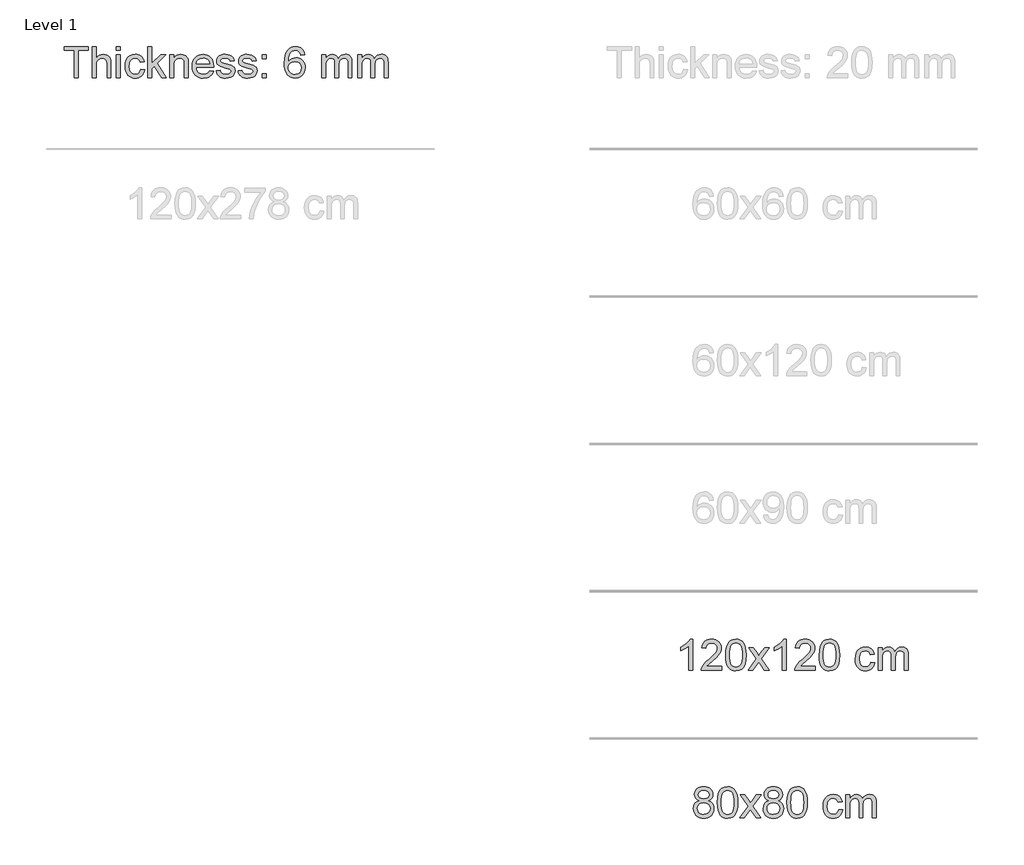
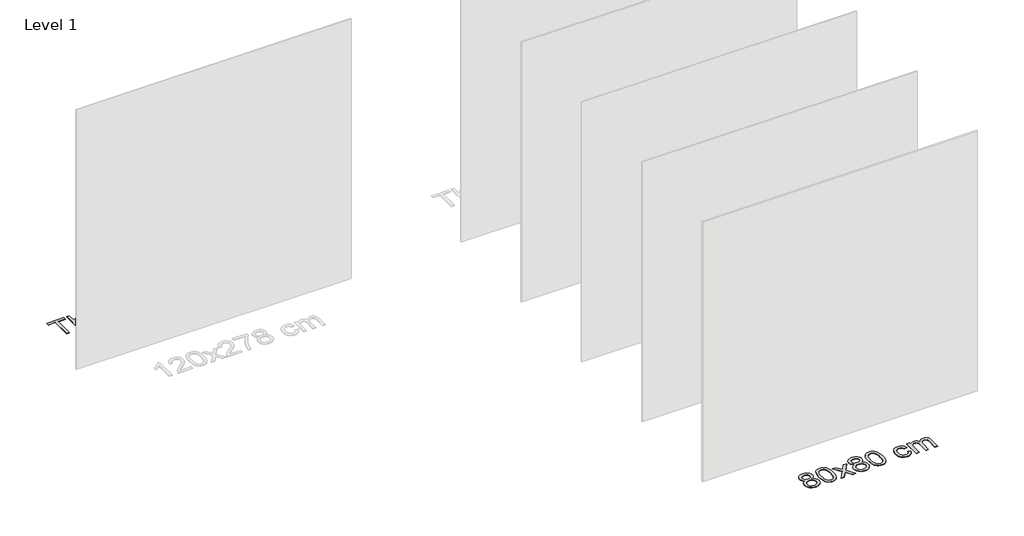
# One storey, part 4 of 7: 3 proxies.
"""IFC4 building model written with IfcOpenShell, lengths in millimetres."""

import ifcopenshell
import ifcopenshell.guid

model = None  # the IFC model being written
_history = None  # IfcOwnerHistory: only IFC2X3 demands one
_inside = {}  # id of a spatial element -> (the spatial element, [elements in it])
_under = {}  # id of a project, library or spatial element -> (it, [spatial elements below it])
_declared = {}  # id of a project -> (the project, [libraries it declares])
_typed = {}  # id of a type object -> (the type object, [elements of that type])
_made_of = {}  # id of a material, layer set ... -> (it, [elements and type objects made of it])


def new_model(schema):
    """Start an empty IFC model of exactly this schema.

    Asked for "IFC4X3", IfcOpenShell would pick the latest addendum, in which some entities
    have other attributes; the version numbers below select the first issue.
    IFC2X3 requires an IfcOwnerHistory on every rooted entity: one is made here for all.
    """
    global model, _history
    if schema == "IFC4X3":
        model = ifcopenshell.file(schema_version=(4, 3, 0, 0))
    else:
        model = ifcopenshell.file(schema=schema)
    _inside.clear()
    _under.clear()
    _declared.clear()
    _typed.clear()
    _made_of.clear()
    _history = None
    if model.schema == "IFC2X3":
        org = make("IfcOrganization", Name="unknown")
        user = make(
            "IfcPersonAndOrganization",
            ThePerson=make("IfcPerson", FamilyName="unknown"),
            TheOrganization=org,
        )
        app = make(
            "IfcApplication",
            ApplicationDeveloper=org,
            Version="unknown",
            ApplicationFullName="unknown",
            ApplicationIdentifier="unknown",
        )
        _history = make(
            "IfcOwnerHistory",
            OwningUser=user,
            OwningApplication=app,
            ChangeAction="ADDED",
            CreationDate=0,
        )
    return model


def make(cls, **values):
    """One entity of the class cls with the attributes given. An attribute that is None is left unset."""
    return model.create_entity(
        cls, **{name: value for name, value in values.items() if value is not None}
    )


def rooted(cls, **values):
    """An entity with a GlobalId (a new one), such as an element, a storey or a relation."""
    return make(cls, GlobalId=ifcopenshell.guid.new(), OwnerHistory=_history, **values)


def si_unit(unit_type, name, prefix=None):
    """IfcSIUnit, for example si_unit("LENGTHUNIT", "METRE", prefix="MILLI")."""
    return make("IfcSIUnit", UnitType=unit_type, Prefix=prefix, Name=name)


def assignment(units):
    """IfcUnitAssignment: the units of a project."""
    return None if units is None else make("IfcUnitAssignment", Units=units)


def point(xyz):
    """IfcCartesianPoint."""
    return None if xyz is None else make("IfcCartesianPoint", Coordinates=xyz)


def direction(xyz):
    """IfcDirection."""
    return None if xyz is None else make("IfcDirection", DirectionRatios=xyz)


def frame(location, z_axis=None, x_axis=None):
    """IfcAxis2Placement3D, a coordinate frame: its origin and axes. An axis left out is left unset."""
    return make(
        "IfcAxis2Placement3D",
        Location=point(location),
        Axis=direction(z_axis),
        RefDirection=direction(x_axis),
    )


def origin():
    """The frame at (0, 0, 0) with its axes left unset."""
    return frame((0.0, 0.0, 0.0))


def origin_with_axes():
    """The frame at (0, 0, 0) with the z axis (0, 0, 1) and the x axis (1, 0, 0) written out."""
    return frame((0.0, 0.0, 0.0), z_axis=(0.0, 0.0, 1.0), x_axis=(1.0, 0.0, 0.0))


def place(relative_to, where):
    """IfcLocalPlacement: puts the frame where relative to a parent placement (None: the world)."""
    return make(
        "IfcLocalPlacement", PlacementRelTo=relative_to, RelativePlacement=where
    )


def context(
    kind, dimensions, precision=None, world=None, true_north=None, identifier=None
):
    """IfcGeometricRepresentationContext, for example the 3D "Model" context."""
    return make(
        "IfcGeometricRepresentationContext",
        ContextIdentifier=identifier,
        ContextType=kind,
        CoordinateSpaceDimension=dimensions,
        Precision=precision,
        WorldCoordinateSystem=world,
        TrueNorth=true_north,
    )


def project(units=None, contexts=None):
    """IfcProject with its units and contexts."""
    return rooted(
        "IfcProject",
        Name="project",
        RepresentationContexts=contexts,
        UnitsInContext=assignment(units),
    )


def spatial(cls, under=None, at=None, **own):
    """A site, building, storey or space (cls), placed at a placement, below another one or the project."""
    s = rooted(cls, ObjectPlacement=at, **own)
    if under is not None:
        _under.setdefault(under.id(), (under, []))[1].append(s)
    return s


def polyline(points):
    """IfcPolyline through the points."""
    return make("IfcPolyline", Points=[point(p) for p in points])


def outline(outer, holes=None, kind="AREA"):
    """IfcArbitraryClosedProfileDef: a profile drawn as a closed curve; with holes, ...WithVoids."""
    if holes is None:
        return make("IfcArbitraryClosedProfileDef", ProfileType=kind, OuterCurve=outer)
    return make(
        "IfcArbitraryProfileDefWithVoids",
        ProfileType=kind,
        OuterCurve=outer,
        InnerCurves=holes,
    )


def extrude(swept, where, along, depth):
    """IfcExtrudedAreaSolid: the profile swept, set in the frame where, extruded along a direction by depth."""
    return make(
        "IfcExtrudedAreaSolid",
        SweptArea=swept,
        Position=where,
        ExtrudedDirection=direction(along),
        Depth=depth,
    )


def shape(context_of_items, identifier, shape_type, items):
    """IfcShapeRepresentation: the items that make up one representation, for example the "Body"."""
    return make(
        "IfcShapeRepresentation",
        ContextOfItems=context_of_items,
        RepresentationIdentifier=identifier,
        RepresentationType=shape_type,
        Items=items,
    )


def made_of(thing, what):
    """Note that an element or type object is made of a material, layer set ...; save() writes the relation."""
    if what is not None:
        _made_of.setdefault(what.id(), (what, []))[1].append(thing)
    return thing


def element(
    cls,
    number,
    at=None,
    inside=None,
    cuts=None,
    type_object=None,
    material=None,
    context=None,
    identifier="Body",
    shape_type=None,
    held_by="IfcProductDefinitionShape",
    body=None,
    shapes=None,
    **own,
):
    """One element of the class cls, such as IfcWall. Its Tag is "e" and its number.

    at: its placement. inside: the storey or other place that contains it. cuts: it is an
    opening in that element (IfcRelVoidsElement). A single representation is given by context,
    identifier, shape_type and body (its items); several are given by shapes. held_by: the class
    of the entity that holds the representations. save() writes the other relations.
    """
    e = rooted(cls, Tag="e%d" % number, ObjectPlacement=at, **own)
    if body is not None:
        shapes = [shape(context, identifier, shape_type, body)]
    if shapes is not None:
        e.Representation = make(held_by, Representations=shapes)
    if inside is not None:
        _inside.setdefault(inside.id(), (inside, []))[1].append(e)
    if cuts is not None:
        rooted(
            "IfcRelVoidsElement", RelatingBuildingElement=cuts, RelatedOpeningElement=e
        )
    if type_object is not None:
        _typed.setdefault(type_object.id(), (type_object, []))[1].append(e)
    return made_of(e, material)


def aggregate(whole, parts):
    """IfcRelAggregates: a whole, such as a stair, and the parts it consists of."""
    return rooted("IfcRelAggregates", RelatingObject=whole, RelatedObjects=parts)


def save(model, path):
    """Write the relations noted so far, then the file.

    IfcRelAggregates (storeys below a building ...), IfcRelContainedInSpatialStructure (elements
    in a storey), IfcRelDefinesByType, IfcRelAssociatesMaterial and IfcRelDeclares: one each for
    every whole, place, type object, material and project.
    """
    for whole, parts in _under.values():
        aggregate(whole, parts)
    for where, things in _inside.values():
        rooted(
            "IfcRelContainedInSpatialStructure",
            RelatedElements=things,
            RelatingStructure=where,
        )
    for kind, things in _typed.values():
        rooted("IfcRelDefinesByType", RelatedObjects=things, RelatingType=kind)
    for what, things in _made_of.values():
        rooted("IfcRelAssociatesMaterial", RelatedObjects=things, RelatingMaterial=what)
    for by, libraries in _declared.values():
        rooted("IfcRelDeclares", RelatingContext=by, RelatedDefinitions=libraries)
    model.write(path)


model = new_model("IFC4")

# Units and contexts
model_context = context("Model", 3, world=origin())
ifc_project = project(units=[si_unit("LENGTHUNIT", "METRE", prefix="MILLI")], contexts=[model_context])

# Site, building, storey
site = spatial("IfcSite", under=ifc_project)
building = spatial("IfcBuilding", under=site)
storey = spatial("IfcBuildingStorey", under=building, Name="Level 1", Elevation=0.0)

# Proxies
placement = place(None, origin())
element("IfcBuildingElementProxy", 1, Name="400mm Arial", ObjectType="400mm Arial", at=placement, inside=storey, context=model_context, shape_type="SweptSolid", body=[
    extrude(outline(polyline([(-9085.008477, 11625.1077423), (-9085.008477, 11976.7048278), (-9216.8573841, 11976.7048278), (-9216.8573841, 12026.9329829), (-8902.9314149, 12026.9329829), (-8902.9314149, 11976.7048278), (-9034.7803219, 11976.7048278), (-9034.7803219, 11625.1077423), (-9085.008477, 11625.1077423)])), origin_with_axes(), (0.0, 0.0, 1.0), 5.0),
    extrude(outline(polyline([(-8852.7032598, 11625.1077423), (-8852.7032598, 12026.9329829), (-8802.4751047, 12026.9329829), (-8802.4751047, 11879.1915736), (-8784.0258227, 11899.8788045), (-8763.307935, 11914.655398), (-8740.3214416, 11923.5213541), (-8715.0663427, 11926.4766728), (-8684.7283408, 11923.2515739), (-8658.6577701, 11913.5762775), (-8638.1299547, 11898.2110728), (-8624.420219, 11877.9162494), (-8616.6946971, 11850.0307942), (-8614.1195232, 11811.893694), (-8614.1195232, 11625.1077423), (-8664.3476783, 11625.1077423), (-8664.3476783, 11806.6942951), (-8668.3453293, 11838.135943), (-8680.3382823, 11859.6693024), (-8699.6643498, 11872.1037139), (-8725.6613441, 11876.2485177), (-8746.8881352, 11873.4526145), (-8766.8150766, 11865.064905), (-8783.3207155, 11851.8947296), (-8794.283599, 11834.7514286), (-8800.4272283, 11811.9672704), (-8802.4751047, 11781.8745232), (-8802.4751047, 11625.1077423), (-8852.7032598, 11625.1077423)])), origin_with_axes(), (0.0, 0.0, 1.0), 5.0),
    extrude(outline(polyline([(-8545.05581, 11625.1077423), (-8545.05581, 11920.1981534), (-8494.8276549, 11920.1981534), (-8494.8276549, 11625.1077423), (-8545.05581, 11625.1077423)])), origin_with_axes(), (0.0, 0.0, 1.0), 5.0),
    extrude(outline(polyline([(-8545.05581, 11976.7048278), (-8545.05581, 12026.9329829), (-8494.8276549, 12026.9329829), (-8494.8276549, 11976.7048278), (-8545.05581, 11976.7048278)])), origin_with_axes(), (0.0, 0.0, 1.0), 5.0),
    extrude(outline(polyline([(-8231.1298407, 11731.8425718), (-8180.9016857, 11725.5640525), (-8186.3647333, 11701.8632549), (-8194.9057269, 11680.8909155), (-8206.5246666, 11662.6470342), (-8221.2215523, 11647.1316111), (-8238.377116, 11634.7493163), (-8257.3720897, 11625.90482), (-8278.2064734, 11620.5981222), (-8300.880267, 11618.8292229), (-8329.0508308, 11621.297098), (-8354.3089955, 11628.7007231), (-8376.654761, 11641.0400984), (-8396.0881274, 11658.3152237), (-8411.8181484, 11680.2011368), (-8423.0538776, 11706.372875), (-8429.7953152, 11736.8304386), (-8432.042461, 11771.5738273), (-8428.2042256, 11816.2714897), (-8416.6895191, 11855.0094638), (-8397.3144007, 11886.2916961), (-8369.8949293, 11908.6221333), (-8337.0921181, 11922.0130379), (-8301.5669801, 11926.4766728), (-8279.2825282, 11924.9438311), (-8259.1256606, 11920.3453062), (-8241.0963771, 11912.6810979), (-8225.1946779, 11901.9512064), (-8211.690343, 11888.4008863), (-8200.8531525, 11872.2753921), (-8192.6831066, 11853.574724), (-8187.180205, 11832.298882), (-8237.4083601, 11826.0203626), (-8246.5195709, 11847.9338668), (-8260.7075531, 11863.642428), (-8279.187492, 11873.0969953), (-8301.1745726, 11876.2485177), (-8318.2412315, 11874.6972819), (-8333.6340273, 11870.0435747), (-8347.3529601, 11862.287396), (-8359.3980297, 11851.4287457), (-8369.2051506, 11837.216238), (-8376.2102369, 11819.3984867), (-8380.4132887, 11797.9754918), (-8381.814306, 11772.9472534), (-8376.3328642, 11725.8706208), (-8369.4810621, 11707.9333078), (-8359.888539, 11693.7299971), (-8348.0825927, 11682.9357263), (-8334.5905205, 11675.2255328), (-8319.4123225, 11670.5994167), (-8302.5479987, 11669.057378), (-8276.5387417, 11672.9078762), (-8255.2138487, 11684.4593709), (-8239.7014912, 11704.0061675), (-8231.1298407, 11731.8425718)])), origin_with_axes(), (0.0, 0.0, 1.0), 5.0),
    extrude(outline(polyline([(-8136.95205, 11625.1077423), (-8136.95205, 12026.9329829), (-8086.7238949, 12026.9329829), (-8086.7238949, 11811.0107772), (-7974.1029534, 11920.1981534), (-7904.6468328, 11920.1981534), (-8018.7393022, 11809.6373511), (-7898.3683134, 11625.1077423), (-7957.0332289, 11625.1077423), (-8054.7426868, 11774.713087), (-8086.7238949, 11743.6147957), (-8086.7238949, 11625.1077423), (-8136.95205, 11625.1077423)])), origin_with_axes(), (0.0, 0.0, 1.0), 5.0),
    extrude(outline(polyline([(-7854.4186777, 11625.1077423), (-7854.4186777, 11920.1981534), (-7804.1905226, 11920.1981534), (-7804.1905226, 11878.9953699), (-7786.7406533, 11899.7684399), (-7765.7836423, 11914.606347), (-7741.3194896, 11923.5090913), (-7713.3481953, 11926.4766728), (-7688.589737, 11924.0854398), (-7665.9159433, 11916.9117409), (-7647.0068088, 11905.8507556), (-7633.5423278, 11891.7976633), (-7624.4065916, 11874.7892524), (-7618.4836914, 11854.862311), (-7615.8349411, 11806.3018877), (-7615.8349411, 11625.1077423), (-7666.0630961, 11625.1077423), (-7666.0630961, 11799.532859), (-7667.5100987, 11825.5053278), (-7671.8511062, 11843.973004), (-7679.858671, 11857.2044931), (-7692.3053451, 11867.4684007), (-7708.259161, 11874.0534884), (-7726.7881508, 11876.2485177), (-7756.2064477, 11871.3188989), (-7781.283737, 11856.5300427), (-7791.3054557, 11844.4573819), (-7798.4638262, 11827.9578744), (-7802.7588485, 11807.0315203), (-7804.1905226, 11781.6783195), (-7804.1905226, 11625.1077423), (-7854.4186777, 11625.1077423)])), origin_with_axes(), (0.0, 0.0, 1.0), 5.0),
    extrude(outline(polyline([(-7340.1686994, 11713.0070137), (-7290.9215629, 11706.7284943), (-7298.4723409, 11687.003888), (-7308.6657378, 11669.6214637), (-7321.5017538, 11654.5812215), (-7336.9803887, 11641.8831613), (-7354.9422271, 11631.7970633), (-7375.2278535, 11624.5927075), (-7422.77047, 11618.8292229), (-7453.9362064, 11621.3154921), (-7481.7051656, 11628.7742995), (-7506.0773478, 11641.2056453), (-7527.0527529, 11658.6095293), (-7543.9201424, 11680.5015737), (-7555.9682777, 11706.3974005), (-7563.1971589, 11736.2970097), (-7565.606786, 11770.2004012), (-7563.1726335, 11805.253424), (-7555.8701759, 11836.1493802), (-7543.6994132, 11862.8882699), (-7526.6603454, 11885.470093), (-7505.7401226, 11903.4104717), (-7481.9258948, 11916.2250278), (-7455.217662, 11923.9137615), (-7425.6154241, 11926.4766728), (-7396.9666137, 11923.9198929), (-7371.0585242, 11916.2495533), (-7347.8911556, 11903.465654), (-7327.4645078, 11885.5681949), (-7310.7902564, 11863.0354227), (-7298.8800768, 11836.3455839), (-7291.733969, 11805.4986786), (-7289.3519331, 11770.4947068), (-7289.6462387, 11756.9566494), (-7515.3786309, 11756.9566494), (-7512.4692975, 11736.913212), (-7506.6843531, 11719.3591095), (-7498.0237978, 11704.2943418), (-7486.4876316, 11691.7189089), (-7472.7135165, 11681.8044891), (-7457.3391148, 11674.7227607), (-7421.7894513, 11669.057378), (-7395.056693, 11671.6816029), (-7372.5423149, 11679.5542776), (-7354.246317, 11693.1659114), (-7340.1686994, 11713.0070137)]), holes=[polyline([(-7515.3786309, 11807.1848045), (-7339.5800882, 11807.1848045), (-7346.3736423, 11833.721359), (-7359.6909706, 11852.70407), (-7373.3884435, 11863.0047659), (-7388.9743774, 11870.3624058), (-7406.4487721, 11874.7769897), (-7425.8116278, 11876.2485177), (-7459.6690341, 11871.5518909), (-7487.664854, 11857.4620105), (-7507.1258115, 11835.4994553), (-7515.3786309, 11807.1848045)])]), origin_with_axes(), (0.0, 0.0, 1.0), 5.0),
    extrude(outline(polyline([(-7257.9593362, 11713.0070137), (-7207.7311811, 11719.2855331), (-7199.8094555, 11697.8012246), (-7184.481039, 11682.0068242), (-7161.6478298, 11672.2947396), (-7131.2117261, 11669.057378), (-7101.1435044, 11672.0249594), (-7080.0025524, 11680.9277037), (-7067.4945645, 11693.828099), (-7063.3252352, 11708.7886335), (-7067.51909, 11721.5909269), (-7080.1006542, 11731.3520625), (-7131.8003373, 11745.6749349), (-7207.4368755, 11770.2494521), (-7226.579002, 11782.5980244), (-7240.4481532, 11798.9442478), (-7248.8726509, 11818.2457898), (-7251.6808168, 11839.4603182), (-7249.4244739, 11858.9212757), (-7242.6554452, 11876.8861798), (-7231.9868673, 11892.6437919), (-7218.031877, 11905.4828736), (-7186.0997198, 11920.3453062), (-7165.2162852, 11924.9438311), (-7142.8858481, 11926.4766728), (-7110.1934014, 11924.0118634), (-7081.7683859, 11916.6174353), (-7058.9106513, 11905.0168897), (-7042.9200472, 11889.9337279), (-7032.3250458, 11870.2520412), (-7025.6541189, 11844.8559208), (-7075.882274, 11838.5774014), (-7082.2221071, 11854.3840644), (-7094.7668831, 11866.2911783), (-7113.6392295, 11873.7591828), (-7138.9617735, 11876.2485177), (-7167.8037219, 11873.8695474), (-7187.0316875, 11866.7326367), (-7197.8474182, 11856.4319409), (-7201.4526617, 11844.5616152), (-7195.4684479, 11829.9444372), (-7176.7309916, 11818.8589264), (-7133.468069, 11808.1658231), (-7059.7445172, 11784.5232735), (-7040.2712969, 11773.2170336), (-7025.5069661, 11757.7414643), (-7016.1995517, 11738.0475148), (-7013.0970802, 11714.0861342), (-7016.7391119, 11689.3154132), (-7027.6652072, 11666.0162202), (-7045.458433, 11646.0157024), (-7069.7018565, 11631.141007), (-7098.9852633, 11621.9071689), (-7131.8984391, 11618.8292229), (-7158.9316344, 11620.3130136), (-7182.5435272, 11624.7643858), (-7202.7341173, 11632.1833393), (-7219.5034049, 11642.5698743), (-7233.2008779, 11655.8749398), (-7244.1760241, 11672.0494849), (-7252.4288435, 11691.0935095), (-7257.9593362, 11713.0070137)])), origin_with_axes(), (0.0, 0.0, 1.0), 5.0),
    extrude(outline(polyline([(-6975.4259639, 11713.0070137), (-6925.1978088, 11719.2855331), (-6917.2760832, 11697.8012246), (-6901.9476667, 11682.0068242), (-6879.1144575, 11672.2947396), (-6848.6783538, 11669.057378), (-6818.6101321, 11672.0249594), (-6797.4691801, 11680.9277037), (-6784.9611922, 11693.828099), (-6780.791863, 11708.7886335), (-6784.9857177, 11721.5909269), (-6797.5672819, 11731.3520625), (-6849.266965, 11745.6749349), (-6924.9035032, 11770.2494521), (-6944.0456297, 11782.5980244), (-6957.9147809, 11798.9442478), (-6966.3392786, 11818.2457898), (-6969.1474445, 11839.4603182), (-6966.8911016, 11858.9212757), (-6960.1220729, 11876.8861798), (-6949.453495, 11892.6437919), (-6935.4985047, 11905.4828736), (-6903.5663475, 11920.3453062), (-6882.6829129, 11924.9438311), (-6860.3524758, 11926.4766728), (-6827.6600291, 11924.0118634), (-6799.2350136, 11916.6174353), (-6776.377279, 11905.0168897), (-6760.386675, 11889.9337279), (-6749.7916735, 11870.2520412), (-6743.1207466, 11844.8559208), (-6793.3489017, 11838.5774014), (-6799.6887348, 11854.3840644), (-6812.2335108, 11866.2911783), (-6831.1058572, 11873.7591828), (-6856.4284012, 11876.2485177), (-6885.2703496, 11873.8695474), (-6904.4983152, 11866.7326367), (-6915.3140459, 11856.4319409), (-6918.9192894, 11844.5616152), (-6912.9350756, 11829.9444372), (-6894.1976193, 11818.8589264), (-6850.9346967, 11808.1658231), (-6777.2111449, 11784.5232735), (-6757.7379246, 11773.2170336), (-6742.9735938, 11757.7414643), (-6733.6661794, 11738.0475148), (-6730.5637079, 11714.0861342), (-6734.2057396, 11689.3154132), (-6745.1318349, 11666.0162202), (-6762.9250607, 11646.0157024), (-6787.1684842, 11631.141007), (-6816.451891, 11621.9071689), (-6849.3650669, 11618.8292229), (-6876.3982621, 11620.3130136), (-6900.0101549, 11624.7643858), (-6920.200745, 11632.1833393), (-6936.9700326, 11642.5698743), (-6950.6675056, 11655.8749398), (-6961.6426518, 11672.0494849), (-6969.8954712, 11691.0935095), (-6975.4259639, 11713.0070137)])), origin_with_axes(), (0.0, 0.0, 1.0), 5.0),
    extrude(outline(polyline([(-6661.4999946, 11869.9699983), (-6661.4999946, 11920.1981534), (-6611.2718396, 11920.1981534), (-6611.2718396, 11869.9699983), (-6661.4999946, 11869.9699983)])), origin_with_axes(), (0.0, 0.0, 1.0), 5.0),
    extrude(outline(polyline([(-6661.4999946, 11625.1077423), (-6661.4999946, 11675.3358974), (-6611.2718396, 11675.3358974), (-6611.2718396, 11625.1077423), (-6661.4999946, 11625.1077423)])), origin_with_axes(), (0.0, 0.0, 1.0), 5.0),
    extrude(outline(polyline([(-6115.2688082, 11920.1981534), (-6165.4969633, 11913.919634), (-6173.5903672, 11938.8129823), (-6184.5287252, 11955.8091305), (-6207.3128834, 11971.4809035), (-6234.8549821, 11976.7048278), (-6258.2032261, 11973.66367), (-6280.1780439, 11964.5401965), (-6299.0503903, 11945.3244936), (-6314.4646459, 11918.8737782), (-6324.8757063, 11881.4601793), (-6328.7384673, 11829.355826), (-6308.5907967, 11852.8634855), (-6284.4454751, 11869.430438), (-6257.6514031, 11879.2528873), (-6229.5574814, 11882.5270371), (-6205.4244225, 11880.2890883), (-6183.1552991, 11873.5752418), (-6162.7501111, 11862.3854978), (-6144.2088585, 11846.7198562), (-6128.8007343, 11827.5102847), (-6117.7949312, 11805.688751), (-6111.1914494, 11781.2552552), (-6108.9902888, 11754.2097971), (-6113.1350926, 11718.2432008), (-6125.5695041, 11684.9008293), (-6145.2634536, 11656.6229666), (-6171.1868715, 11635.8498966), (-6202.1625355, 11623.0843913), (-6237.0132231, 11618.8292229), (-6266.9557519, 11621.6496516), (-6293.9981442, 11630.1109374), (-6318.1404001, 11644.2130806), (-6339.3825197, 11663.956081), (-6356.7005646, 11690.1738045), (-6369.0705967, 11723.700117), (-6376.4926159, 11764.5350185), (-6378.9666224, 11812.6785089), (-6376.2197701, 11866.652929), (-6367.9792134, 11912.7178861), (-6354.2449523, 11950.8733804), (-6335.0169867, 11981.1194118), (-6314.1764716, 12001.1628491), (-6290.0127559, 12015.4795901), (-6262.5258395, 12024.0696347), (-6231.7157224, 12026.9329829), (-6208.5820763, 12025.161018), (-6187.6434594, 12019.8451231), (-6168.8998717, 12010.9852984), (-6152.3513133, 11998.5815438), (-6138.4453739, 11983.0507922), (-6127.6296432, 11964.8099767), (-6119.9041213, 11943.859097), (-6115.2688082, 11920.1981534)]), holes=[polyline([(-6328.7384673, 11754.9946121), (-6325.8321995, 11732.7377514), (-6317.1133962, 11711.4864348), (-6303.5753388, 11693.2149623), (-6286.2113086, 11679.8976341), (-6265.2542976, 11671.767442), (-6240.9372978, 11669.057378), (-6207.79113, 11674.6737098), (-6193.8759935, 11681.6941245), (-6181.732822, 11691.5227052), (-6171.8827816, 11703.7609129), (-6164.8470384, 11718.0102088), (-6159.2184439, 11752.5420654), (-6164.773462, 11785.6882332), (-6171.7172347, 11799.3090641), (-6181.4385164, 11810.9617263), (-6193.6184761, 11820.2967319), (-6207.9382828, 11826.9645931), (-6242.9974369, 11832.298882), (-6276.0945538, 11826.9645931), (-6303.7715425, 11810.9617263), (-6314.6945721, 11799.4623482), (-6322.4967361, 11786.3013699), (-6327.1780345, 11771.4787911), (-6328.7384673, 11754.9946121)])]), origin_with_axes(), (0.0, 0.0, 1.0), 5.0),
    extrude(outline(polyline([(-5895.5206298, 11625.1077423), (-5895.5206298, 11920.1981534), (-5845.2924747, 11920.1981534), (-5845.2924747, 11871.63773), (-5830.1847874, 11893.9436416), (-5810.7606181, 11911.4180364), (-5787.6821542, 11922.7120137), (-5761.6115835, 11926.4766728), (-5733.6770773, 11922.6384373), (-5711.2853266, 11911.1237308), (-5694.5589585, 11892.6928429), (-5683.6206005, 11868.1060629), (-5665.3123399, 11893.6432047), (-5644.4289053, 11911.8840203), (-5620.9702968, 11922.8285096), (-5594.9365142, 11926.4766728), (-5574.8286975, 11924.9591595), (-5557.1795588, 11920.4066198), (-5541.9890981, 11912.8190537), (-5529.2573154, 11902.1964611), (-5519.1926771, 11888.4162147), (-5512.0036498, 11871.3556871), (-5507.6902334, 11851.0148785), (-5506.2524279, 11827.3937887), (-5506.2524279, 11625.1077423), (-5556.480583, 11625.1077423), (-5556.480583, 11805.8113783), (-5557.6455427, 11830.8641422), (-5561.1404216, 11847.7499258), (-5567.6887211, 11859.3136832), (-5578.0139425, 11868.4003684), (-5591.2944825, 11874.2864804), (-5606.7087381, 11876.2485177), (-5633.919743, 11871.2207971), (-5656.1030273, 11856.1376353), (-5664.7084003, 11844.5677465), (-5670.8550953, 11829.9689627), (-5675.7724513, 11791.6847097), (-5675.7724513, 11625.1077423), (-5726.0006064, 11625.1077423), (-5726.0006064, 11811.4031847), (-5728.9068741, 11839.8036747), (-5737.6256774, 11860.0617099), (-5752.9663566, 11872.2018157), (-5775.7382521, 11876.2485177), (-5795.0888451, 11873.5507164), (-5812.9188591, 11865.4573125), (-5827.6341389, 11852.1645097), (-5837.6405292, 11833.8685118), (-5843.3794883, 11808.4846542), (-5845.2924747, 11773.9282721), (-5845.2924747, 11625.1077423), (-5895.5206298, 11625.1077423)])), origin_with_axes(), (0.0, 0.0, 1.0), 5.0),
    extrude(outline(polyline([(-5430.9101953, 11625.1077423), (-5430.9101953, 11920.1981534), (-5380.6820402, 11920.1981534), (-5380.6820402, 11871.63773), (-5365.574353, 11893.9436416), (-5346.1501836, 11911.4180364), (-5323.0717198, 11922.7120137), (-5297.0011491, 11926.4766728), (-5269.0666429, 11922.6384373), (-5246.6748921, 11911.1237308), (-5229.9485241, 11892.6928429), (-5219.0101661, 11868.1060629), (-5200.7019055, 11893.6432047), (-5179.8184709, 11911.8840203), (-5156.3598623, 11922.8285096), (-5130.3260798, 11926.4766728), (-5110.2182631, 11924.9591595), (-5092.5691244, 11920.4066198), (-5077.3786636, 11912.8190537), (-5064.6468809, 11902.1964611), (-5054.5822427, 11888.4162147), (-5047.3932153, 11871.3556871), (-5043.079799, 11851.0148785), (-5041.6419935, 11827.3937887), (-5041.6419935, 11625.1077423), (-5091.8701486, 11625.1077423), (-5091.8701486, 11805.8113783), (-5093.0351082, 11830.8641422), (-5096.5299872, 11847.7499258), (-5103.0782867, 11859.3136832), (-5113.403508, 11868.4003684), (-5126.684048, 11874.2864804), (-5142.0983036, 11876.2485177), (-5169.3093085, 11871.2207971), (-5191.4925929, 11856.1376353), (-5200.0979659, 11844.5677465), (-5206.2446609, 11829.9689627), (-5211.1620169, 11791.6847097), (-5211.1620169, 11625.1077423), (-5261.3901719, 11625.1077423), (-5261.3901719, 11811.4031847), (-5264.2964397, 11839.8036747), (-5273.015243, 11860.0617099), (-5288.3559222, 11872.2018157), (-5311.1278177, 11876.2485177), (-5330.4784106, 11873.5507164), (-5348.3084247, 11865.4573125), (-5363.0237045, 11852.1645097), (-5373.0300947, 11833.8685118), (-5378.7690539, 11808.4846542), (-5380.6820402, 11773.9282721), (-5380.6820402, 11625.1077423), (-5430.9101953, 11625.1077423)])), origin_with_axes(), (0.0, 0.0, 1.0), 5.0),
])
element("IfcBuildingElementProxy", 2, Name="400mm Arial", ObjectType="400mm Arial", at=placement, inside=storey, context=model_context, shape_type="SweptSolid", body=[
    extrude(outline(polyline([(-1115.9447638, 3985.1077423), (-1166.1729189, 3985.1077423), (-1166.1729189, 4298.2488966), (-1187.1421926, 4281.2895366), (-1213.7523236, 4264.3547021), (-1266.629229, 4238.9953699), (-1266.629229, 4286.4766728), (-1227.1800164, 4307.9364558), (-1193.003779, 4333.4674663), (-1166.0625543, 4360.6171575), (-1148.3183794, 4386.9329829), (-1115.9447638, 4386.9329829), (-1115.9447638, 3985.1077423)])), origin_with_axes(), (0.0, 0.0, 1.0), 5.0),
    extrude(outline(polyline([(-739.2336007, 4035.3358974), (-739.2336007, 3985.1077423), (-1002.9314149, 3985.1077423), (-1001.8277689, 4002.7906035), (-997.5358123, 4019.7377008), (-985.138189, 4046.8015529), (-966.9770812, 4073.0560646), (-940.7225695, 4100.5368497), (-904.0447346, 4131.2795217), (-849.8557167, 4179.4230122), (-817.3717365, 4214.9604129), (-801.1481405, 4243.8023613), (-795.7402752, 4271.8594948), (-800.8538349, 4297.0103605), (-816.1945141, 4317.9183206), (-839.77575, 4332.008201), (-869.6109798, 4336.7048278), (-900.9422631, 4332.1185656), (-925.2837884, 4318.359779), (-940.9923496, 4296.5075885), (-946.4247404, 4267.6411146), (-996.6528955, 4273.919634), (-992.3333477, 4299.8491833), (-984.4760014, 4322.5045828), (-973.0808566, 4341.8858326), (-958.1479133, 4357.9929326), (-940.020528, 4370.6542046), (-919.0420572, 4379.6979703), (-895.212501, 4385.1242298), (-868.5318593, 4386.9329829), (-841.6120943, 4384.9218947), (-817.6537794, 4378.8886299), (-796.6569145, 4368.8331887), (-778.6214997, 4354.7555711), (-764.1361461, 4337.6981092), (-753.789465, 4318.7031355), (-747.5814563, 4297.77065), (-745.5121201, 4274.9006526), (-747.7439375, 4250.8779584), (-754.4393899, 4227.272197), (-766.3219783, 4203.2617654), (-784.1152041, 4178.0250606), (-812.478906, 4147.8955252), (-856.0729224, 4109.206602), (-913.8549211, 4060.8914333), (-936.516452, 4035.3358974), (-739.2336007, 4035.3358974)])), origin_with_axes(), (0.0, 0.0, 1.0), 5.0),
    extrude(outline(polyline([(-689.0054456, 4182.783001), (-685.314363, 4247.1010365), (-674.2411149, 4298.3960494), (-655.8960661, 4337.4528546), (-644.0380031, 4352.6862348), (-630.3895811, 4365.0562669), (-614.9048148, 4374.6273302), (-597.5377189, 4381.4638039), (-557.1565386, 4386.9329829), (-526.2054, 4383.6956213), (-498.4916231, 4373.9835367), (-475.3150574, 4358.1768736), (-457.9755527, 4336.6557769), (-444.8789536, 4309.6041875), (-434.431105, 4277.2060465), (-427.5884999, 4236.0645767), (-425.3076315, 4182.783001), (-428.961926, 4118.8328476), (-439.9248094, 4067.660462), (-458.1594937, 4028.5668687), (-469.9899655, 4013.2875031), (-483.6291905, 4000.8530917), (-499.1323509, 3991.2176491), (-516.554629, 3984.3351901), (-557.1565386, 3978.8292229), (-584.8212646, 3981.2204559), (-609.346731, 3988.3941548), (-630.7329376, 4000.3503196), (-648.9798846, 4017.0889504), (-666.4910675, 4047.3472445), (-678.9990554, 4085.0490177), (-686.5038481, 4130.1942698), (-689.0054456, 4182.783001)]), holes=[polyline([(-638.7772906, 4182.8811029), (-637.3057626, 4139.2165758), (-632.8911786, 4103.8723131), (-625.5335387, 4076.8483149), (-615.2328429, 4058.1445811), (-602.773906, 4045.4189297), (-588.941543, 4036.3291788), (-573.7357538, 4030.8753282), (-557.1565386, 4029.057378), (-540.5773233, 4030.8814596), (-525.3715342, 4036.3537042), (-511.5391712, 4045.474112), (-499.0802343, 4058.2426829), (-488.7795384, 4076.9770736), (-481.4218985, 4103.9949404), (-477.0073146, 4139.2962835), (-475.5357866, 4182.8811029), (-476.9582636, 4225.3898675), (-481.2256948, 4260.1117964), (-488.33808, 4287.0468898), (-498.2954193, 4306.1951477), (-510.5458898, 4319.5431328), (-524.5376683, 4329.0774078), (-540.270755, 4334.7979728), (-557.7451498, 4336.7048278), (-574.2385259, 4335.0248334), (-589.1867976, 4329.9848501), (-602.589965, 4321.5848778), (-614.448028, 4309.8249167), (-625.0920803, 4288.9782703), (-632.6949749, 4260.8720859), (-637.2567117, 4225.5063634), (-638.7772906, 4182.8811029)])]), origin_with_axes(), (0.0, 0.0, 1.0), 5.0),
    extrude(outline(polyline([(-400.193554, 3985.1077423), (-292.8701132, 4133.5358646), (-393.9150346, 4280.1981534), (-333.6804892, 4280.1981534), (-284.9238621, 4209.4667084), (-262.0661275, 4176.2101761), (-242.2495507, 4203.4824946), (-186.7238949, 4280.1981534), (-126.2931458, 4280.1981534), (-232.4393642, 4133.4377628), (-130.2172204, 3985.1077423), (-190.5498676, 3985.1077423), (-252.1578391, 4074.3804398), (-263.3414518, 4090.7634513), (-339.7628049, 3985.1077423), (-400.193554, 3985.1077423)])), origin_with_axes(), (0.0, 0.0, 1.0), 5.0),
    extrude(outline(polyline([(89.530958, 3985.1077423), (39.3028029, 3985.1077423), (39.3028029, 4298.2488966), (18.3335292, 4281.2895366), (-8.2766018, 4264.3547021), (-61.1535072, 4238.9953699), (-61.1535072, 4286.4766728), (-21.7042946, 4307.9364558), (12.4719428, 4333.4674663), (39.4131675, 4360.6171575), (57.1573424, 4386.9329829), (89.530958, 4386.9329829), (89.530958, 3985.1077423)])), origin_with_axes(), (0.0, 0.0, 1.0), 5.0),
    extrude(outline(polyline([(466.2421211, 4035.3358974), (466.2421211, 3985.1077423), (202.5443069, 3985.1077423), (203.6479529, 4002.7906035), (207.9399095, 4019.7377008), (220.3375328, 4046.8015529), (238.4986406, 4073.0560646), (264.7531523, 4100.5368497), (301.4309872, 4131.2795217), (355.6200051, 4179.4230122), (388.1039853, 4214.9604129), (404.3275813, 4243.8023613), (409.7354466, 4271.8594948), (404.6218869, 4297.0103605), (389.2812077, 4317.9183206), (365.6999718, 4332.008201), (335.864742, 4336.7048278), (304.5334587, 4332.1185656), (280.1919334, 4318.359779), (264.4833722, 4296.5075885), (259.0509814, 4267.6411146), (208.8228263, 4273.919634), (213.1423741, 4299.8491833), (220.9997204, 4322.5045828), (232.3948652, 4341.8858326), (247.3278085, 4357.9929326), (265.4551938, 4370.6542046), (286.4336646, 4379.6979703), (310.2632208, 4385.1242298), (336.9438625, 4386.9329829), (363.8636275, 4384.9218947), (387.8219424, 4378.8886299), (408.8188073, 4368.8331887), (426.8542221, 4354.7555711), (441.3395757, 4337.6981092), (451.6862568, 4318.7031355), (457.8942655, 4297.77065), (459.9636017, 4274.9006526), (457.7317843, 4250.8779584), (451.0363319, 4227.272197), (439.1537435, 4203.2617654), (421.3605177, 4178.0250606), (392.9968158, 4147.8955252), (349.4027994, 4109.206602), (291.6208007, 4060.8914333), (268.9592698, 4035.3358974), (466.2421211, 4035.3358974)])), origin_with_axes(), (0.0, 0.0, 1.0), 5.0),
    extrude(outline(polyline([(516.4702762, 4182.783001), (520.1613588, 4247.1010365), (531.2346069, 4298.3960494), (549.5796557, 4337.4528546), (561.4377187, 4352.6862348), (575.0861407, 4365.0562669), (590.570907, 4374.6273302), (607.9380029, 4381.4638039), (648.3191832, 4386.9329829), (679.2703217, 4383.6956213), (706.9840987, 4373.9835367), (730.1606644, 4358.1768736), (747.5001691, 4336.6557769), (760.5967681, 4309.6041875), (771.0446168, 4277.2060465), (777.8872219, 4236.0645767), (780.1680903, 4182.783001), (776.5137958, 4118.8328476), (765.5509124, 4067.660462), (747.3162281, 4028.5668687), (735.4857563, 4013.2875031), (721.8465313, 4000.8530917), (706.3433709, 3991.2176491), (688.9210928, 3984.3351901), (648.3191832, 3978.8292229), (620.6544572, 3981.2204559), (596.1289908, 3988.3941548), (574.7427842, 4000.3503196), (556.4958372, 4017.0889504), (538.9846543, 4047.3472445), (526.4766664, 4085.0490177), (518.9718737, 4130.1942698), (516.4702762, 4182.783001)]), holes=[polyline([(566.6984312, 4182.8811029), (568.1699592, 4139.2165758), (572.5845431, 4103.8723131), (579.9421831, 4076.8483149), (590.2428789, 4058.1445811), (602.7018158, 4045.4189297), (616.5341788, 4036.3291788), (631.739968, 4030.8753282), (648.3191832, 4029.057378), (664.8983985, 4030.8814596), (680.1041876, 4036.3537042), (693.9365506, 4045.474112), (706.3954875, 4058.2426829), (716.6961834, 4076.9770736), (724.0538233, 4103.9949404), (728.4684072, 4139.2962835), (729.9399352, 4182.8811029), (728.5174582, 4225.3898675), (724.250027, 4260.1117964), (717.1376418, 4287.0468898), (707.1803025, 4306.1951477), (694.929832, 4319.5431328), (680.9380535, 4329.0774078), (665.2049668, 4334.7979728), (647.730572, 4336.7048278), (631.2371959, 4335.0248334), (616.2889242, 4329.9848501), (602.8857568, 4321.5848778), (591.0276938, 4309.8249167), (580.3836414, 4288.9782703), (572.7807469, 4260.8720859), (568.2190101, 4225.5063634), (566.6984312, 4182.8811029)])]), origin_with_axes(), (0.0, 0.0, 1.0), 5.0),
    extrude(outline(polyline([(1181.9933309, 4091.8425718), (1232.221486, 4085.5640525), (1226.7584383, 4061.8632549), (1218.2174447, 4040.8909155), (1206.598505, 4022.6470342), (1191.9016193, 4007.1316111), (1174.7460556, 3994.7493163), (1155.7510819, 3985.90482), (1134.9166982, 3980.5981222), (1112.2429046, 3978.8292229), (1084.0723408, 3981.297098), (1058.8141762, 3988.7007231), (1036.4684106, 4001.0400984), (1017.0350443, 4018.3152237), (1001.3050233, 4040.2011368), (990.069294, 4066.372875), (983.3278564, 4096.8304386), (981.0807106, 4131.5738273), (984.9189461, 4176.2714897), (996.4336525, 4215.0094638), (1015.8087709, 4246.2916961), (1043.2282423, 4268.6221333), (1076.0310535, 4282.0130379), (1111.5561915, 4286.4766728), (1133.8406434, 4284.9438311), (1153.9975111, 4280.3453062), (1172.0267945, 4272.6810979), (1187.9284937, 4261.9512064), (1201.4328287, 4248.4008863), (1212.2700191, 4232.2753921), (1220.4400651, 4213.574724), (1225.9429666, 4192.298882), (1175.7148115, 4186.0203626), (1166.6036008, 4207.9338668), (1152.4156185, 4223.642428), (1133.9356796, 4233.0969953), (1111.948599, 4236.2485177), (1094.8819401, 4234.6972819), (1079.4891443, 4230.0435747), (1065.7702116, 4222.287396), (1053.7251419, 4211.4287457), (1043.9180211, 4197.216238), (1036.9129347, 4179.3984867), (1032.7098829, 4157.9754918), (1031.3088657, 4132.9472534), (1036.7903074, 4085.8706208), (1043.6421096, 4067.9333078), (1053.2346326, 4053.7299971), (1065.0405789, 4042.9357263), (1078.5326511, 4035.2255328), (1093.7108491, 4030.5994167), (1110.5751729, 4029.057378), (1136.58443, 4032.9078762), (1157.9093229, 4044.4593709), (1173.4216804, 4064.0061675), (1181.9933309, 4091.8425718)])), origin_with_axes(), (0.0, 0.0, 1.0), 5.0),
    extrude(outline(polyline([(1276.1711217, 3985.1077423), (1276.1711217, 4280.1981534), (1326.3992767, 4280.1981534), (1326.3992767, 4231.63773), (1341.506964, 4253.9436416), (1360.9311333, 4271.4180364), (1384.0095972, 4282.7120137), (1410.0801679, 4286.4766728), (1438.0146741, 4282.6384373), (1460.4064248, 4271.1237308), (1477.1327929, 4252.6928429), (1488.0711509, 4228.1060629), (1506.3794115, 4253.6432047), (1527.2628461, 4271.8840203), (1550.7214547, 4282.8285096), (1576.7552372, 4286.4766728), (1596.8630539, 4284.9591595), (1614.5121926, 4280.4066198), (1629.7026533, 4272.8190537), (1642.4344361, 4262.1964611), (1652.4990743, 4248.4162147), (1659.6881016, 4231.3556871), (1664.001518, 4211.0148785), (1665.4393235, 4187.3937887), (1665.4393235, 3985.1077423), (1615.2111684, 3985.1077423), (1615.2111684, 4165.8113783), (1614.0462088, 4190.8641422), (1610.5513298, 4207.7499258), (1604.0030303, 4219.3136832), (1593.677809, 4228.4003684), (1580.3972689, 4234.2864804), (1564.9830133, 4236.2485177), (1537.7720084, 4231.2207971), (1515.5887241, 4216.1376353), (1506.9833511, 4204.5677465), (1500.8366561, 4189.9689627), (1495.9193001, 4151.6847097), (1495.9193001, 3985.1077423), (1445.691145, 3985.1077423), (1445.691145, 4171.4031847), (1442.7848773, 4199.8036747), (1434.066074, 4220.0617099), (1418.7253948, 4232.2018157), (1395.9534993, 4236.2485177), (1376.6029063, 4233.5507164), (1358.7728923, 4225.4573125), (1344.0576125, 4212.1645097), (1334.0512222, 4193.8685118), (1328.3122631, 4168.4846542), (1326.3992767, 4133.9282721), (1326.3992767, 3985.1077423), (1276.1711217, 3985.1077423)])), origin_with_axes(), (0.0, 0.0, 1.0), 5.0),
])
element("IfcBuildingElementProxy", 3, Name="400mm Arial", ObjectType="400mm Arial", at=placement, inside=storey, context=model_context, shape_type="SweptSolid", body=[
    extrude(outline(polyline([(-1031.1163537, 2306.4255506), (-1058.0085276, 2319.6693024), (-1076.8808739, 2337.6219438), (-1088.0276984, 2359.9155927), (-1091.7433065, 2386.1823672), (-1089.7199556, 2406.6672629), (-1083.6499026, 2425.4476388), (-1073.5331478, 2442.5234947), (-1059.369691, 2457.8948308), (-1041.8401139, 2470.5990223), (-1021.6249983, 2479.6734449), (-998.7243441, 2485.1180984), (-973.1381513, 2486.9329829), (-947.4293312, 2485.0751788), (-924.3569987, 2479.5017666), (-903.9211539, 2470.2127462), (-886.1217967, 2457.2081177), (-871.7008225, 2441.5363447), (-861.4001266, 2424.2458909), (-855.2197091, 2405.3367564), (-853.1595699, 2384.808941), (-856.8261272, 2359.3882952), (-867.8257988, 2337.474791), (-886.2812122, 2319.6325142), (-912.3149948, 2306.4255506), (-881.4006444, 2290.4962602), (-858.8985291, 2267.0376517), (-845.1765306, 2237.1778964), (-840.6025312, 2202.0451658), (-842.8711368, 2176.992402), (-849.6769537, 2154.0243027), (-861.0199819, 2133.1408681), (-876.9002214, 2114.3420982), (-896.4838062, 2098.8052153), (-918.9368707, 2087.7074417), (-944.2594147, 2081.0487776), (-972.4514382, 2078.8292229), (-1000.6434618, 2081.0579747), (-1025.9660058, 2087.7442299), (-1048.4190702, 2098.8879887), (-1068.0026551, 2114.489251), (-1083.8828946, 2133.4198453), (-1095.2259228, 2154.5516003), (-1102.0317397, 2177.8845158), (-1104.3003453, 2203.418592), (-1099.5424048, 2239.9124859), (-1085.2685834, 2269.9316567), (-1062.2146451, 2292.4460348), (-1031.1163537, 2306.4255506)]), holes=[polyline([(-1041.5151515, 2384.7108392), (-1037.0637793, 2362.7850723), (-1023.7096629, 2345.2738893), (-1001.8452097, 2333.795971), (-971.862827, 2329.9699983), (-942.5794202, 2333.7714456), (-921.0460608, 2345.1757874), (-907.802309, 2362.0983592), (-903.387725, 2382.4544963), (-907.9494618, 2403.5831855), (-921.634672, 2421.0575803), (-943.462337, 2432.7930159), (-972.4514382, 2436.7048278), (-1001.6244805, 2432.8788551), (-1023.4153573, 2421.4009368), (-1036.9902029, 2404.5764669), (-1041.5151515, 2384.7108392)]), polyline([(-1054.0721902, 2205.1844255), (-1051.9752629, 2185.9687226), (-1045.6844807, 2167.3661564), (-1034.0716724, 2151.1425604), (-1016.0086665, 2139.0637683), (-994.3772052, 2131.5589756), (-972.0590308, 2129.057378), (-937.8705307, 2134.3180905), (-923.976854, 2140.8939812), (-912.2168929, 2150.1002281), (-896.1772379, 2174.0002951), (-890.8306862, 2203.6147957), (-896.3489162, 2233.7320684), (-912.903606, 2258.1594328), (-924.9823981, 2267.6017374), (-939.1458549, 2274.3462406), (-973.7267625, 2279.7418432), (-1007.437016, 2274.419817), (-1021.1743428, 2267.7672843), (-1032.8331364, 2258.4537384), (-1048.7624268, 2234.4923578), (-1054.0721902, 2205.1844255)])]), origin_with_axes(), (0.0, 0.0, 1.0), 5.0),
    extrude(outline(polyline([(-796.6528955, 2282.783001), (-792.9618128, 2347.1010365), (-781.8885647, 2398.3960494), (-763.5435159, 2437.4528546), (-751.6854529, 2452.6862348), (-738.0370309, 2465.0562669), (-722.5522646, 2474.6273302), (-705.1851687, 2481.4638039), (-664.8039884, 2486.9329829), (-633.8528499, 2483.6956213), (-606.1390729, 2473.9835367), (-582.9625072, 2458.1768736), (-565.6230025, 2436.6557769), (-552.5264035, 2409.6041875), (-542.0785548, 2377.2060465), (-535.2359497, 2336.0645767), (-532.9550813, 2282.783001), (-536.6093758, 2218.8328476), (-547.5722593, 2167.660462), (-565.8069435, 2128.5668687), (-577.6374153, 2113.2875031), (-591.2766403, 2100.8530917), (-606.7798007, 2091.2176491), (-624.2020789, 2084.3351901), (-664.8039884, 2078.8292229), (-692.4687144, 2081.2204559), (-716.9941808, 2088.3941548), (-738.3803874, 2100.3503196), (-756.6273344, 2117.0889504), (-774.1385174, 2147.3472445), (-786.6465052, 2185.0490177), (-794.1512979, 2230.1942698), (-796.6528955, 2282.783001)]), holes=[polyline([(-746.4247404, 2282.8811029), (-744.9532124, 2239.2165758), (-740.5386285, 2203.8723131), (-733.1809886, 2176.8483149), (-722.8802927, 2158.1445811), (-710.4213558, 2145.4189297), (-696.5889928, 2136.3291788), (-681.3832037, 2130.8753282), (-664.8039884, 2129.057378), (-648.2247732, 2130.8814596), (-633.018984, 2136.3537042), (-619.186621, 2145.474112), (-606.7276841, 2158.2426829), (-596.4269882, 2176.9770736), (-589.0693483, 2203.9949404), (-584.6547644, 2239.2962835), (-583.1832364, 2282.8811029), (-584.6057135, 2325.3898675), (-588.8731446, 2360.1117964), (-595.9855298, 2387.0468898), (-605.9428692, 2406.1951477), (-618.1933396, 2419.5431328), (-632.1851182, 2429.0774078), (-647.9182048, 2434.7979728), (-665.3925996, 2436.7048278), (-681.8859757, 2435.0248334), (-696.8342475, 2429.9848501), (-710.2374148, 2421.5848778), (-722.0954778, 2409.8249167), (-732.7395302, 2388.9782703), (-740.3424247, 2360.8720859), (-744.9041615, 2325.5063634), (-746.4247404, 2282.8811029)])]), origin_with_axes(), (0.0, 0.0, 1.0), 5.0),
    extrude(outline(polyline([(-507.8410038, 2085.1077423), (-400.5175631, 2233.5358646), (-501.5624844, 2380.1981534), (-441.3279391, 2380.1981534), (-392.571312, 2309.4667084), (-369.7135773, 2276.2101761), (-349.8970005, 2303.4824946), (-294.3713447, 2380.1981534), (-233.9405957, 2380.1981534), (-340.086814, 2233.4377628), (-237.8646703, 2085.1077423), (-298.1973175, 2085.1077423), (-359.8052889, 2174.3804398), (-370.9889016, 2190.7634513), (-447.4102547, 2085.1077423), (-507.8410038, 2085.1077423)])), origin_with_axes(), (0.0, 0.0, 1.0), 5.0),
    extrude(outline(polyline([(-133.2880818, 2306.4255506), (-160.1802556, 2319.6693024), (-179.052602, 2337.6219438), (-190.1994264, 2359.9155927), (-193.9150346, 2386.1823672), (-191.8916836, 2406.6672629), (-185.8216307, 2425.4476388), (-175.7048758, 2442.5234947), (-161.541419, 2457.8948308), (-144.0118419, 2470.5990223), (-123.7967263, 2479.6734449), (-100.8960721, 2485.1180984), (-75.3098793, 2486.9329829), (-49.6010592, 2485.0751788), (-26.5287268, 2479.5017666), (-6.0928819, 2470.2127462), (11.7064753, 2457.2081177), (26.1274495, 2441.5363447), (36.4281453, 2424.2458909), (42.6085629, 2405.3367564), (44.668702, 2384.808941), (41.0021448, 2359.3882952), (30.0024732, 2337.474791), (11.5470597, 2319.6325142), (-14.4867228, 2306.4255506), (16.4276275, 2290.4962602), (38.9297429, 2267.0376517), (52.6517413, 2237.1778964), (57.2257408, 2202.0451658), (54.9571352, 2176.992402), (48.1513182, 2154.0243027), (36.8082901, 2133.1408681), (20.9280506, 2114.3420982), (1.3444657, 2098.8052153), (-21.1085987, 2087.7074417), (-46.4311427, 2081.0487776), (-74.6231663, 2078.8292229), (-102.8151898, 2081.0579747), (-128.1377338, 2087.7442299), (-150.5907983, 2098.8879887), (-170.1743832, 2114.489251), (-186.0546226, 2133.4198453), (-197.3976508, 2154.5516003), (-204.2034677, 2177.8845158), (-206.4720733, 2203.418592), (-201.7141329, 2239.9124859), (-187.4403115, 2269.9316567), (-164.3863731, 2292.4460348), (-133.2880818, 2306.4255506)]), holes=[polyline([(-143.6868795, 2384.7108392), (-139.2355074, 2362.7850723), (-125.8813909, 2345.2738893), (-104.0169377, 2333.795971), (-74.0345551, 2329.9699983), (-44.7511483, 2333.7714456), (-23.2177888, 2345.1757874), (-9.974037, 2362.0983592), (-5.559453, 2382.4544963), (-10.1211898, 2403.5831855), (-23.8064, 2421.0575803), (-45.6340651, 2432.7930159), (-74.6231663, 2436.7048278), (-103.7962085, 2432.8788551), (-125.5870853, 2421.4009368), (-139.161931, 2404.5764669), (-143.6868795, 2384.7108392)]), polyline([(-156.2439183, 2205.1844255), (-154.1469909, 2185.9687226), (-147.8562088, 2167.3661564), (-136.2434005, 2151.1425604), (-118.1803945, 2139.0637683), (-96.5489332, 2131.5589756), (-74.2307588, 2129.057378), (-40.0422587, 2134.3180905), (-26.148582, 2140.8939812), (-14.3886209, 2150.1002281), (1.6510341, 2174.0002951), (6.9975857, 2203.6147957), (1.4793558, 2233.7320684), (-15.075334, 2258.1594328), (-27.1541262, 2267.6017374), (-41.317583, 2274.3462406), (-75.8984905, 2279.7418432), (-109.608744, 2274.419817), (-123.3460709, 2267.7672843), (-135.0048644, 2258.4537384), (-150.9341548, 2234.4923578), (-156.2439183, 2205.1844255)])]), origin_with_axes(), (0.0, 0.0, 1.0), 5.0),
    extrude(outline(polyline([(101.1753765, 2282.783001), (104.8664592, 2347.1010365), (115.9397072, 2398.3960494), (134.2847561, 2437.4528546), (146.142819, 2452.6862348), (159.791241, 2465.0562669), (175.2760074, 2474.6273302), (192.6431032, 2481.4638039), (233.0242836, 2486.9329829), (263.9754221, 2483.6956213), (291.6891991, 2473.9835367), (314.8657647, 2458.1768736), (332.2052695, 2436.6557769), (345.3018685, 2409.6041875), (355.7497171, 2377.2060465), (362.5923223, 2336.0645767), (364.8731906, 2282.783001), (361.2188961, 2218.8328476), (350.2560127, 2167.660462), (332.0213285, 2128.5668687), (320.1908566, 2113.2875031), (306.5516317, 2100.8530917), (291.0484712, 2091.2176491), (273.6261931, 2084.3351901), (233.0242836, 2078.8292229), (205.3595575, 2081.2204559), (180.8340912, 2088.3941548), (159.4478845, 2100.3503196), (141.2009376, 2117.0889504), (123.6897546, 2147.3472445), (111.1817668, 2185.0490177), (103.6769741, 2230.1942698), (101.1753765, 2282.783001)]), holes=[polyline([(151.4035316, 2282.8811029), (152.8750595, 2239.2165758), (157.2896435, 2203.8723131), (164.6472834, 2176.8483149), (174.9479793, 2158.1445811), (187.4069162, 2145.4189297), (201.2392792, 2136.3291788), (216.4450683, 2130.8753282), (233.0242836, 2129.057378), (249.6034988, 2130.8814596), (264.8092879, 2136.3537042), (278.641651, 2145.474112), (291.1005879, 2158.2426829), (301.4012837, 2176.9770736), (308.7589236, 2203.9949404), (313.1735076, 2239.2962835), (314.6450356, 2282.8811029), (313.2225585, 2325.3898675), (308.9551274, 2360.1117964), (301.8427421, 2387.0468898), (291.8854028, 2406.1951477), (279.6349323, 2419.5431328), (265.6431538, 2429.0774078), (249.9100671, 2434.7979728), (232.4356724, 2436.7048278), (215.9422962, 2435.0248334), (200.9940245, 2429.9848501), (187.5908572, 2421.5848778), (175.7327942, 2409.8249167), (165.0887418, 2388.9782703), (157.4858472, 2360.8720859), (152.9241105, 2325.5063634), (151.4035316, 2282.8811029)])]), origin_with_axes(), (0.0, 0.0, 1.0), 5.0),
    extrude(outline(polyline([(766.6984312, 2191.8425718), (816.9265863, 2185.5640525), (811.4635387, 2161.8632549), (802.922545, 2140.8909155), (791.3036053, 2122.6470342), (776.6067196, 2107.1316111), (759.4511559, 2094.7493163), (740.4561822, 2085.90482), (719.6217986, 2080.5981222), (696.9480049, 2078.8292229), (668.7774412, 2081.297098), (643.5192765, 2088.7007231), (621.173511, 2101.0400984), (601.7401446, 2118.3152237), (586.0101236, 2140.2011368), (574.7743943, 2166.372875), (568.0329568, 2196.8304386), (565.7858109, 2231.5738273), (569.6240464, 2276.2714897), (581.1387529, 2315.0094638), (600.5138713, 2346.2916961), (627.9333426, 2368.6221333), (660.7361539, 2382.0130379), (696.2612919, 2386.4766728), (718.5457437, 2384.9438311), (738.7026114, 2380.3453062), (756.7318948, 2372.6810979), (772.6335941, 2361.9512064), (786.137929, 2348.4008863), (796.9751194, 2332.2753921), (805.1451654, 2313.574724), (810.6480669, 2292.298882), (760.4199118, 2286.0203626), (751.3087011, 2307.9338668), (737.1207188, 2323.642428), (718.6407799, 2333.0969953), (696.6536993, 2336.2485177), (679.5870405, 2334.6972819), (664.1942446, 2330.0435747), (650.4753119, 2322.287396), (638.4302422, 2311.4287457), (628.6231214, 2297.216238), (621.6180351, 2279.3984867), (617.4149833, 2257.9754918), (616.013966, 2232.9472534), (621.4954077, 2185.8706208), (628.3472099, 2167.9333078), (637.9397329, 2153.7299971), (649.7456793, 2142.9357263), (663.2377514, 2135.2255328), (678.4159494, 2130.5994167), (695.2802732, 2129.057378), (721.2895303, 2132.9078762), (742.6144233, 2144.4593709), (758.1267807, 2164.0061675), (766.6984312, 2191.8425718)])), origin_with_axes(), (0.0, 0.0, 1.0), 5.0),
    extrude(outline(polyline([(860.876222, 2085.1077423), (860.876222, 2380.1981534), (911.1043771, 2380.1981534), (911.1043771, 2331.63773), (926.2120643, 2353.9436416), (945.6362337, 2371.4180364), (968.7146975, 2382.7120137), (994.7852682, 2386.4766728), (1022.7197744, 2382.6384373), (1045.1115252, 2371.1237308), (1061.8378932, 2352.6928429), (1072.7762512, 2328.1060629), (1091.0845118, 2353.6432047), (1111.9679464, 2371.8840203), (1135.426555, 2382.8285096), (1161.4603375, 2386.4766728), (1181.5681542, 2384.9591595), (1199.217293, 2380.4066198), (1214.4077537, 2372.8190537), (1227.1395364, 2362.1964611), (1237.2041746, 2348.4162147), (1244.393202, 2331.3556871), (1248.7066184, 2311.0148785), (1250.1444238, 2287.3937887), (1250.1444238, 2085.1077423), (1199.9162687, 2085.1077423), (1199.9162687, 2265.8113783), (1198.7513091, 2290.8641422), (1195.2564301, 2307.7499258), (1188.7081306, 2319.3136832), (1178.3829093, 2328.4003684), (1165.1023693, 2334.2864804), (1149.6881137, 2336.2485177), (1122.4771088, 2331.2207971), (1100.2938245, 2316.1376353), (1091.6884514, 2304.5677465), (1085.5417564, 2289.9689627), (1080.6244004, 2251.6847097), (1080.6244004, 2085.1077423), (1030.3962454, 2085.1077423), (1030.3962454, 2271.4031847), (1027.4899776, 2299.8036747), (1018.7711743, 2320.0617099), (1003.4304951, 2332.2018157), (980.6585996, 2336.2485177), (961.3080067, 2333.5507164), (943.4779926, 2325.4573125), (928.7627128, 2312.1645097), (918.7563226, 2293.8685118), (913.0173634, 2268.4846542), (911.1043771, 2233.9282721), (911.1043771, 2085.1077423), (860.876222, 2085.1077423)])), origin_with_axes(), (0.0, 0.0, 1.0), 5.0),
])

save(model, "model.ifc")
